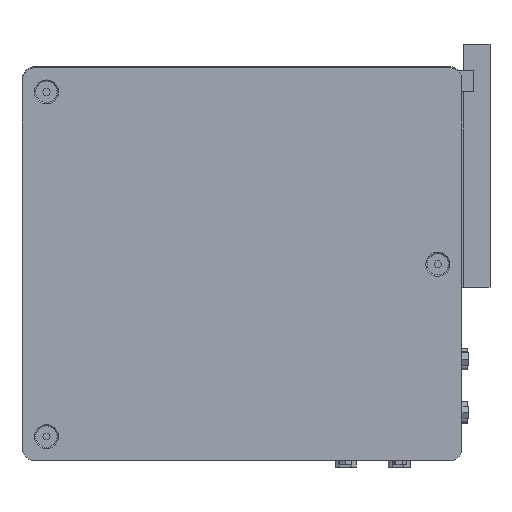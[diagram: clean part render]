
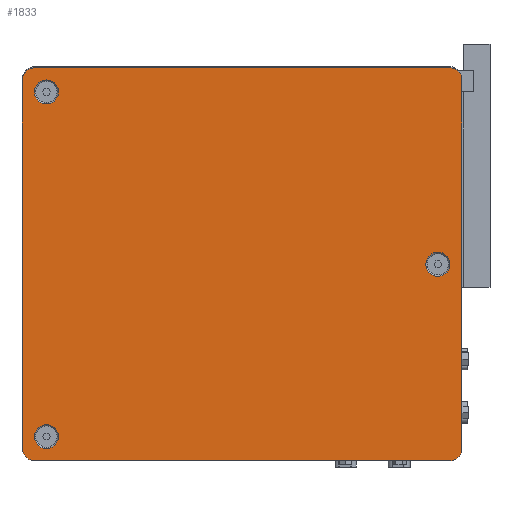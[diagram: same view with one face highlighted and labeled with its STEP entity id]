
A CAD part, left-side view. The second image highlights one B-rep face of the part: STEP entity #1833.
In plain terms, the highlighted planar face has unit normal (-1, 0, 0).
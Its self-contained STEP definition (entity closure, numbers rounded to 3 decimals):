
#1833 = ADVANCED_FACE( '', ( #3591, #3592, #3593, #3594 ), #3595, .F. );
#3591 = FACE_OUTER_BOUND( '', #5610, .T. );
#3592 = FACE_BOUND( '', #5611, .T. );
#3593 = FACE_BOUND( '', #5612, .T. );
#3594 = FACE_BOUND( '', #5613, .T. );
#3595 = PLANE( '', #5614 );
#5610 = EDGE_LOOP( '', ( #8926, #8927, #8928, #8929, #8930, #8931, #8932, #8933 ) );
#5611 = EDGE_LOOP( '', ( #8934 ) );
#5612 = EDGE_LOOP( '', ( #8935 ) );
#5613 = EDGE_LOOP( '', ( #8936 ) );
#5614 = AXIS2_PLACEMENT_3D( '', #8937, #8938, #8939 );
#8926 = ORIENTED_EDGE( '', *, *, #14591, .F. );
#8927 = ORIENTED_EDGE( '', *, *, #14592, .F. );
#8928 = ORIENTED_EDGE( '', *, *, #14593, .F. );
#8929 = ORIENTED_EDGE( '', *, *, #14594, .F. );
#8930 = ORIENTED_EDGE( '', *, *, #14469, .F. );
#8931 = ORIENTED_EDGE( '', *, *, #14595, .F. );
#8932 = ORIENTED_EDGE( '', *, *, #14596, .F. );
#8933 = ORIENTED_EDGE( '', *, *, #14597, .F. );
#8934 = ORIENTED_EDGE( '', *, *, #14598, .T. );
#8935 = ORIENTED_EDGE( '', *, *, #14599, .T. );
#8936 = ORIENTED_EDGE( '', *, *, #14600, .T. );
#8937 = CARTESIAN_POINT( '', ( -42.328, 113.35, 27.49 ) );
#8938 = DIRECTION( '', ( 1., 0., 0. ) );
#8939 = DIRECTION( '', ( 0., 0., 1. ) );
#14469 = EDGE_CURVE( '', #19779, #19781, #19782, .T. );
#14591 = EDGE_CURVE( '', #20010, #20011, #20012, .T. );
#14592 = EDGE_CURVE( '', #20013, #20010, #20014, .T. );
#14593 = EDGE_CURVE( '', #20015, #20013, #20016, .T. );
#14594 = EDGE_CURVE( '', #19781, #20015, #20017, .T. );
#14595 = EDGE_CURVE( '', #20018, #19779, #20019, .T. );
#14596 = EDGE_CURVE( '', #20020, #20018, #20021, .T. );
#14597 = EDGE_CURVE( '', #20011, #20020, #20022, .T. );
#14598 = EDGE_CURVE( '', #20023, #20023, #20024, .T. );
#14599 = EDGE_CURVE( '', #20025, #20025, #20026, .T. );
#14600 = EDGE_CURVE( '', #20027, #20027, #20028, .T. );
#19779 = VERTEX_POINT( '', #22891 );
#19781 = VERTEX_POINT( '', #22894 );
#19782 = CIRCLE( '', #22895, 4.5 );
#20010 = VERTEX_POINT( '', #23226 );
#20011 = VERTEX_POINT( '', #23227 );
#20012 = CIRCLE( '', #23228, 4.5 );
#20013 = VERTEX_POINT( '', #23229 );
#20014 = LINE( '', #23230, #23231 );
#20015 = VERTEX_POINT( '', #23232 );
#20016 = CIRCLE( '', #23233, 4.5 );
#20017 = LINE( '', #23234, #23235 );
#20018 = VERTEX_POINT( '', #23236 );
#20019 = LINE( '', #23237, #23238 );
#20020 = VERTEX_POINT( '', #23239 );
#20021 = CIRCLE( '', #23240, 4.5 );
#20022 = LINE( '', #23241, #23242 );
#20023 = VERTEX_POINT( '', #23243 );
#20024 = CIRCLE( '', #23244, 4.5 );
#20025 = VERTEX_POINT( '', #23245 );
#20026 = CIRCLE( '', #23246, 4.5 );
#20027 = VERTEX_POINT( '', #23247 );
#20028 = CIRCLE( '', #23248, 4.5 );
#22891 = CARTESIAN_POINT( '', ( -42.328, -46.65, -110.51 ) );
#22894 = CARTESIAN_POINT( '', ( -42.328, -42.15, -115.01 ) );
#22895 = AXIS2_PLACEMENT_3D( '', #27583, #27584, #27585 );
#23226 = CARTESIAN_POINT( '', ( -42.328, 117.85, 27.49 ) );
#23227 = CARTESIAN_POINT( '', ( -42.328, 113.35, 31.99 ) );
#23228 = AXIS2_PLACEMENT_3D( '', #27743, #27744, #27745 );
#23229 = CARTESIAN_POINT( '', ( -42.328, 117.85, -110.51 ) );
#23230 = CARTESIAN_POINT( '', ( -42.328, 117.85, -110.51 ) );
#23231 = VECTOR( '', #27746, 1000. );
#23232 = CARTESIAN_POINT( '', ( -42.328, 113.35, -115.01 ) );
#23233 = AXIS2_PLACEMENT_3D( '', #27747, #27748, #27749 );
#23234 = CARTESIAN_POINT( '', ( -42.328, -42.15, -115.01 ) );
#23235 = VECTOR( '', #27750, 1000. );
#23236 = CARTESIAN_POINT( '', ( -42.328, -46.65, 27.49 ) );
#23237 = CARTESIAN_POINT( '', ( -42.328, -46.65, 27.49 ) );
#23238 = VECTOR( '', #27751, 1000. );
#23239 = CARTESIAN_POINT( '', ( -42.328, -42.15, 31.99 ) );
#23240 = AXIS2_PLACEMENT_3D( '', #27752, #27753, #27754 );
#23241 = CARTESIAN_POINT( '', ( -42.328, 113.35, 31.99 ) );
#23242 = VECTOR( '', #27755, 1000. );
#23243 = CARTESIAN_POINT( '', ( -42.328, -33.15, -41.51 ) );
#23244 = AXIS2_PLACEMENT_3D( '', #27756, #27757, #27758 );
#23245 = CARTESIAN_POINT( '', ( -42.328, 113.35, 22.99 ) );
#23246 = AXIS2_PLACEMENT_3D( '', #27759, #27760, #27761 );
#23247 = CARTESIAN_POINT( '', ( -42.328, 113.35, -106.01 ) );
#23248 = AXIS2_PLACEMENT_3D( '', #27762, #27763, #27764 );
#27583 = CARTESIAN_POINT( '', ( -42.328, -42.15, -110.51 ) );
#27584 = DIRECTION( '', ( 1., 0., 0. ) );
#27585 = DIRECTION( '', ( 0., 1., 0. ) );
#27743 = CARTESIAN_POINT( '', ( -42.328, 113.35, 27.49 ) );
#27744 = DIRECTION( '', ( 1., 0., 0. ) );
#27745 = DIRECTION( '', ( 0., 1., 0. ) );
#27746 = DIRECTION( '', ( 0., 0., 1. ) );
#27747 = CARTESIAN_POINT( '', ( -42.328, 113.35, -110.51 ) );
#27748 = DIRECTION( '', ( 1., 0., 0. ) );
#27749 = DIRECTION( '', ( 0., 1., 0. ) );
#27750 = DIRECTION( '', ( 0., 1., 0. ) );
#27751 = DIRECTION( '', ( 0., 0., -1. ) );
#27752 = CARTESIAN_POINT( '', ( -42.328, -42.15, 27.49 ) );
#27753 = DIRECTION( '', ( 1., 0., 0. ) );
#27754 = DIRECTION( '', ( 0., 1., 0. ) );
#27755 = DIRECTION( '', ( 0., -1., 0. ) );
#27756 = CARTESIAN_POINT( '', ( -42.328, -37.65, -41.51 ) );
#27757 = DIRECTION( '', ( 1., 0., 0. ) );
#27758 = DIRECTION( '', ( 0., 1., 0. ) );
#27759 = CARTESIAN_POINT( '', ( -42.328, 108.85, 22.99 ) );
#27760 = DIRECTION( '', ( 1., 0., 0. ) );
#27761 = DIRECTION( '', ( 0., 1., 0. ) );
#27762 = CARTESIAN_POINT( '', ( -42.328, 108.85, -106.01 ) );
#27763 = DIRECTION( '', ( 1., 0., 0. ) );
#27764 = DIRECTION( '', ( 0., 1., 0. ) );
